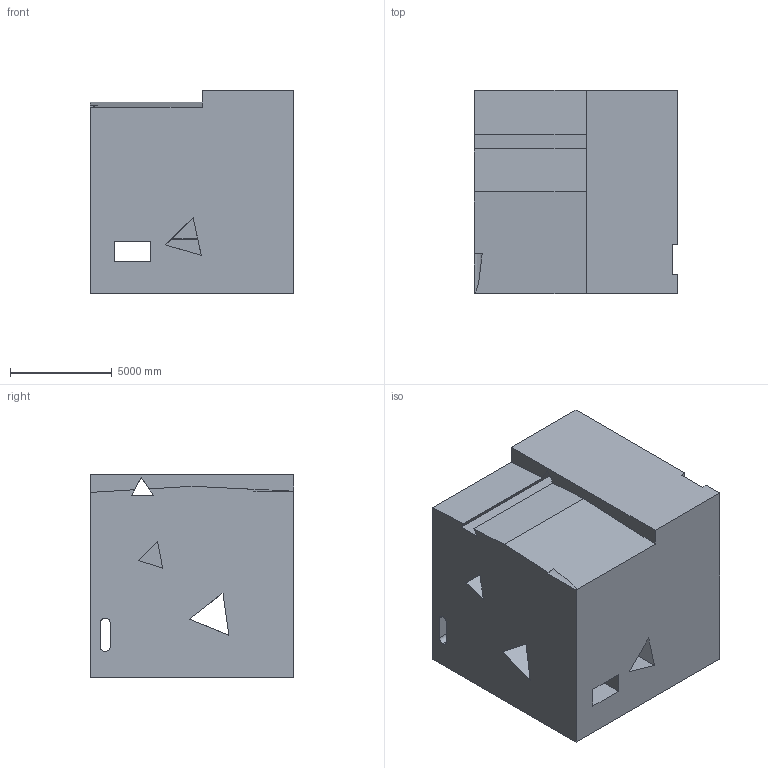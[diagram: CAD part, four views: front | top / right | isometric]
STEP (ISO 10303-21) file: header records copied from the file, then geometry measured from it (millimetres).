
FILE_DESCRIPTION (( 'STEP AP203' ), '1' );
FILE_NAME ('192.STEP', '2022-09-05T16:06:40', ( 'user' ), ( '' ), 'SwSTEP 2.0', 'SolidWorks 2021', '' );
FILE_SCHEMA (( 'CONFIG_CONTROL_DESIGN' ));
Length unit declared in the file: centimetre
Products named in the file (1): 192
Bounding box: 10000 x 10000 x 10000 mm (x, y, z)
Volume: 882572194817.1 mm3; surface area: 811024210 mm2
Topology: 1 solids, 1 shells, 48 faces, 152 edges, 101 vertices
Faces by surface type: plane 43, cylinder 5
Entity records: 1766 total; most frequent: CARTESIAN_POINT 311, ORIENTED_EDGE 304, DIRECTION 256, EDGE_CURVE 152, VECTOR 140, LINE 140, VERTEX_POINT 101, EDGE_LOOP 59
